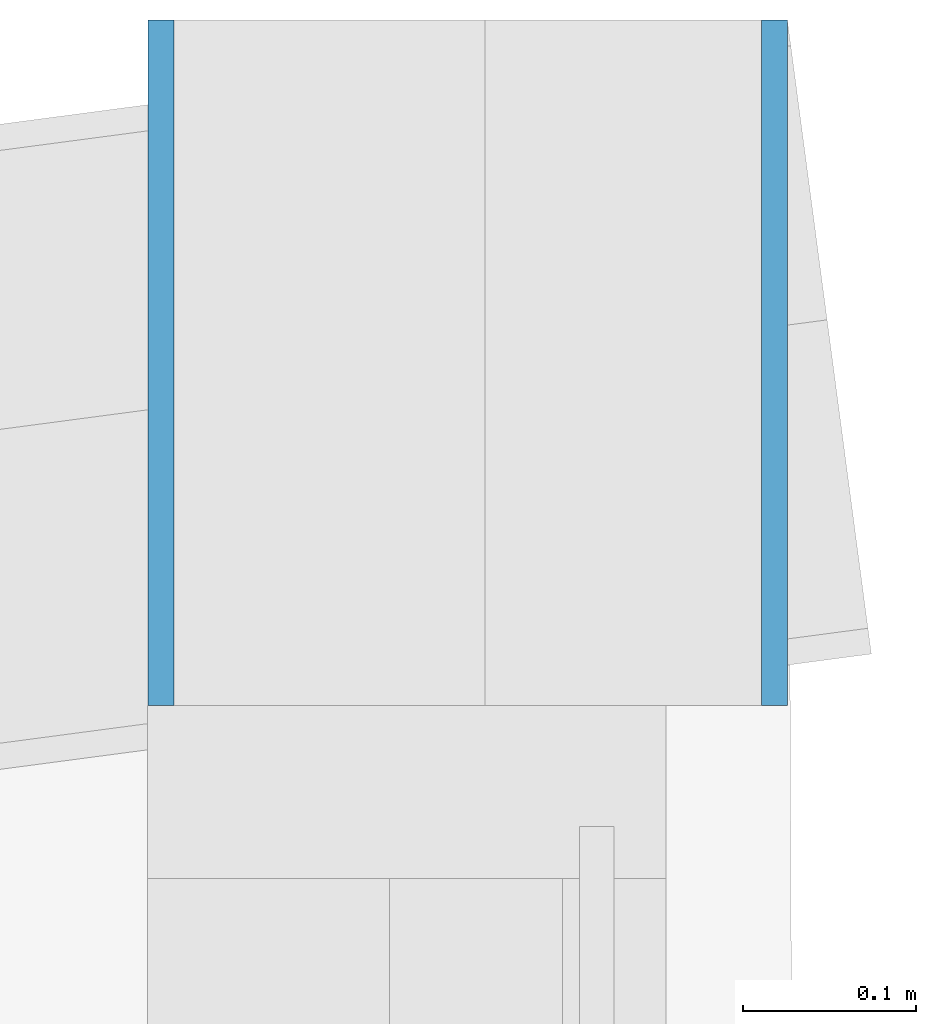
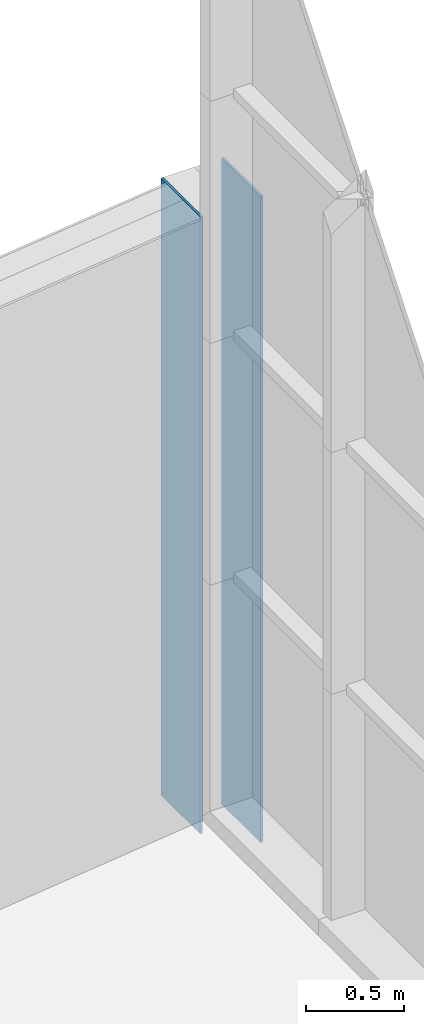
# One storey, part 21 of 27: 2 building element parts, 1 element without a shape of its own.
"""IFC2X3 building model written with IfcOpenShell, lengths in metres."""

from ifc_helpers import new_model, entity, si_unit, converted_unit, money_unit, direction, frame, origin_with_axes, place, context, subcontext, project, spatial, polyline, outline, extrude, material, type_object, element, aggregate, save


model = new_model("IFC2X3")

# Units and contexts
model_context = context("Model", 3, precision=1e-05, world=origin_with_axes(), true_north=direction((0.0, 1.0)))
body_context = subcontext(model_context, "Body", "Model", "MODEL_VIEW")
ifc_project = project(units=[si_unit("LENGTHUNIT", "METRE"), si_unit("AREAUNIT", "SQUARE_METRE"), si_unit("VOLUMEUNIT", "CUBIC_METRE"), converted_unit("PLANEANGLEUNIT", "DEGREE", entity("IfcPlaneAngleMeasure", 0.0174532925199), si_unit("PLANEANGLEUNIT", "RADIAN"), dimensions=[0, 0, 0, 0, 0, 0, 0]), si_unit("SOLIDANGLEUNIT", "STERADIAN"), money_unit("EUR"), converted_unit("TIMEUNIT", "Year", entity("IfcTimeMeasure", 31556926.0), si_unit("TIMEUNIT", "SECOND"), dimensions=[0, 0, 0, 0, 0, 0, 0]), si_unit("MASSUNIT", "GRAM"), si_unit("THERMODYNAMICTEMPERATUREUNIT", "DEGREE_CELSIUS"), si_unit("LUMINOUSINTENSITYUNIT", "LUMEN")], contexts=[model_context])

# Site, building, storey
site_placement = place(None, origin_with_axes())
site = spatial("IfcSite", under=ifc_project, at=site_placement, Name="Undefined", CompositionType="ELEMENT")
building_placement = place(site_placement, origin_with_axes())
building = spatial("IfcBuilding", under=site, at=building_placement, Name="Undefined", CompositionType="ELEMENT")
storey_placement = place(building_placement, frame((0.0, 0.0, 5.4), z_axis=(0.0, 0.0, 1.0), x_axis=(1.0, 0.0, 0.0)))
storey = spatial("IfcBuildingStorey", under=building, at=storey_placement, Name="R+1", CompositionType="ELEMENT", Elevation=5.4)

# Wall, building element parts
wall_type = type_object("IfcWallType", Name="Profil personnalis\x8e 370 x 4005", PredefinedType="NOTDEFINED")
wall_placement = place(storey_placement, frame((29.6202598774, 31.1461094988, -0.28), z_axis=(0.0, 0.0, 1.0), x_axis=(0.0, -1.0, 0.0)))
wall = element("IfcWall", 1, at=wall_placement, inside=storey, type_object=wall_type, Name="WallEx02", ObjectType="WALL")
ifc_material_1 = material(Name="Finition ext - Cr\x8epis")
building_element_part_1_placement = place(wall_placement, origin_with_axes())
building_element_part_1 = element("IfcBuildingElementPart", 2, at=building_element_part_1_placement, material=ifc_material_1, context=body_context, shape_type="SweptSolid", body=[
    extrude(outline(polyline([(-0.015, 0.0), (0.0, 0.0), (0.0, 4.005), (-0.015, 4.005), (-0.015, 0.0)])), frame((0.0, 0.0, 0.0), z_axis=(1.0, 0.0, 0.0), x_axis=(0.0, 1.0, 0.0)), (0.0, 0.0, 1.0), 0.396729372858),
])
ifc_material_2 = material(Name="Finition int - Enduit pl\x89tre")
building_element_part_2_placement = place(wall_placement, origin_with_axes())
building_element_part_2 = element("IfcBuildingElementPart", 3, at=building_element_part_2_placement, material=ifc_material_2, context=body_context, shape_type="SweptSolid", body=[
    extrude(outline(polyline([(-0.37, 0.18), (-0.355, 0.18), (-0.355, 4.005), (-0.37, 4.005), (-0.37, 0.18)])), frame((0.0, 0.0, 0.0), z_axis=(1.0, 0.0, 0.0), x_axis=(0.0, 1.0, 0.0)), (0.0, 0.0, 1.0), 0.396729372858),
])
aggregate(wall, [building_element_part_1, building_element_part_2])

save(model, "model.ifc")
